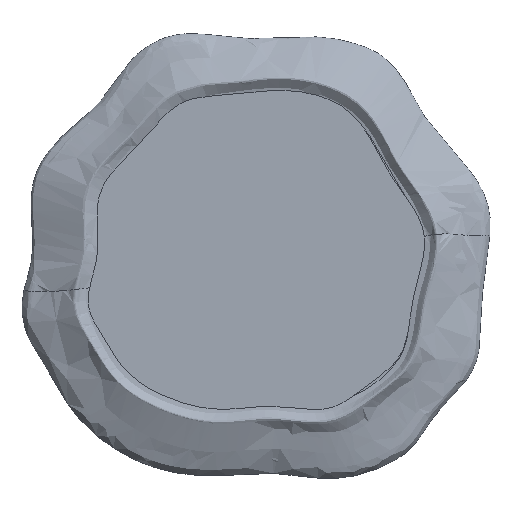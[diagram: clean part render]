
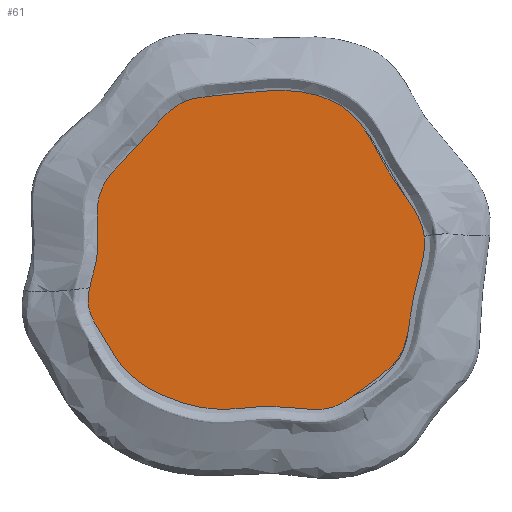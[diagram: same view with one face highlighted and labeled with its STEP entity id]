
A CAD part, top view. The second image highlights one B-rep face of the part: STEP entity #61.
In plain terms, the highlighted planar face has unit normal (0, 0, 1).
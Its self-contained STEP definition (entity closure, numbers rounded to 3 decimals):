
#61=ADVANCED_FACE('',(#89),#396,.T.);
#89=FACE_OUTER_BOUND('',#117,.T.);
#117=EDGE_LOOP('',(#150));
#150=ORIENTED_EDGE('',*,*,#255,.T.);
#255=EDGE_CURVE('',#362,#362,#309,.T.);
#309=B_SPLINE_CURVE_WITH_KNOTS('',3,(#856,#857,#858,#859,#860,#861,#862,
#863,#864,#865,#866,#867,#868,#869,#870,#871,#872,#873,#874,#875,#876,#877,
#878,#879,#880,#881,#882,#883,#884,#885,#886,#887,#888,#889,#890,#891,#892,
#893,#894,#895,#896,#897,#898,#899,#900,#901,#902,#903,#904,#905,#906,#907,
#908,#909,#910,#911,#912,#913,#914,#915,#916,#917,#918,#919,#920,#921,#922,
#923,#924,#925,#926,#927,#928,#929,#930,#931,#932,#933,#934,#935,#936,#937,
#938,#939,#940,#941,#942,#943,#944,#945,#946,#947,#948,#949,#950,#951,#952,
#953,#954,#955,#956,#957,#958,#959,#960,#961,#962,#963,#964,#965,#966,#967,
#968,#969,#970,#971,#972,#973,#974,#975,#976),.UNSPECIFIED.,.T.,.F.,(4,
3,3,3,3,3,3,3,3,3,3,3,3,3,3,3,3,3,3,3,3,3,3,3,3,3,3,3,3,3,3,3,3,3,3,3,3,
3,3,3,4),(0.,48.005,101.464,198.146,276.126,
351.432,521.403,612.826,660.573,704.06,
789.501,833.932,877.788,982.204,1026.929,
1068.753,1157.973,1239.195,1335.641,1378.502,
1421.446,1520.3,1572.544,1620.147,1716.213,
1757.818,1802.748,1905.522,2022.954,2112.329,
2207.532,2262.59,2317.935,2407.988,2495.768,
2569.607,2642.344,2724.907,2821.426,2876.16,
2925.604),.UNSPECIFIED.);
#362=VERTEX_POINT('',#732);
#396=PLANE('',#444);
#444=AXIS2_PLACEMENT_3D('',#730,#466,$);
#466=DIRECTION('',(0.,0.,1.));
#730=CARTESIAN_POINT('',(9263.82,-11497.822,72.206));
#732=CARTESIAN_POINT('',(9380.367,-11089.167,72.206));
#856=CARTESIAN_POINT('',(9380.367,-11089.167,72.206));
#857=CARTESIAN_POINT('',(9381.3,-11104.973,72.206));
#858=CARTESIAN_POINT('',(9385.999,-11120.676,72.206));
#859=CARTESIAN_POINT('',(9392.588,-11135.287,72.206));
#860=CARTESIAN_POINT('',(9399.926,-11151.557,72.206));
#861=CARTESIAN_POINT('',(9409.609,-11166.474,72.206));
#862=CARTESIAN_POINT('',(9418.789,-11181.762,72.206));
#863=CARTESIAN_POINT('',(9435.392,-11209.41,72.206));
#864=CARTESIAN_POINT('',(9450.35,-11238.269,72.206));
#865=CARTESIAN_POINT('',(9470.469,-11263.376,72.206));
#866=CARTESIAN_POINT('',(9486.696,-11283.627,72.206));
#867=CARTESIAN_POINT('',(9506.279,-11301.437,72.206));
#868=CARTESIAN_POINT('',(9527.762,-11315.991,72.206));
#869=CARTESIAN_POINT('',(9548.507,-11330.045,72.206));
#870=CARTESIAN_POINT('',(9571.024,-11341.063,72.206));
#871=CARTESIAN_POINT('',(9594.225,-11350.778,72.206));
#872=CARTESIAN_POINT('',(9646.591,-11372.704,72.206));
#873=CARTESIAN_POINT('',(9702.446,-11387.992,72.206));
#874=CARTESIAN_POINT('',(9758.996,-11386.824,72.206));
#875=CARTESIAN_POINT('',(9789.413,-11386.196,72.206));
#876=CARTESIAN_POINT('',(9820.031,-11380.807,72.206));
#877=CARTESIAN_POINT('',(9850.381,-11378.711,72.206));
#878=CARTESIAN_POINT('',(9866.232,-11377.617,72.206));
#879=CARTESIAN_POINT('',(9882.009,-11377.421,72.206));
#880=CARTESIAN_POINT('',(9897.845,-11378.194,72.206));
#881=CARTESIAN_POINT('',(9912.268,-11378.899,72.206));
#882=CARTESIAN_POINT('',(9926.739,-11380.407,72.206));
#883=CARTESIAN_POINT('',(9941.195,-11382.081,72.206));
#884=CARTESIAN_POINT('',(9969.598,-11385.37,72.206));
#885=CARTESIAN_POINT('',(9997.943,-11389.296,72.206));
#886=CARTESIAN_POINT('',(10026.253,-11386.455,72.206));
#887=CARTESIAN_POINT('',(10040.974,-11384.978,72.206));
#888=CARTESIAN_POINT('',(10055.685,-11381.671,72.206));
#889=CARTESIAN_POINT('',(10069.306,-11375.956,72.206));
#890=CARTESIAN_POINT('',(10082.752,-11370.315,72.206));
#891=CARTESIAN_POINT('',(10095.135,-11362.329,72.206));
#892=CARTESIAN_POINT('',(10107.283,-11354.102,72.206));
#893=CARTESIAN_POINT('',(10136.204,-11334.514,72.206));
#894=CARTESIAN_POINT('',(10163.787,-11313.564,72.206));
#895=CARTESIAN_POINT('',(10190.958,-11291.765,72.206));
#896=CARTESIAN_POINT('',(10202.596,-11282.428,72.206));
#897=CARTESIAN_POINT('',(10214.159,-11272.935,72.206));
#898=CARTESIAN_POINT('',(10224.28,-11261.934,72.206));
#899=CARTESIAN_POINT('',(10233.744,-11251.647,72.206));
#900=CARTESIAN_POINT('',(10241.946,-11240.042,72.206));
#901=CARTESIAN_POINT('',(10248.135,-11227.639,72.206));
#902=CARTESIAN_POINT('',(10261.336,-11201.18,72.206));
#903=CARTESIAN_POINT('',(10265.374,-11171.092,72.206));
#904=CARTESIAN_POINT('',(10269.512,-11141.468,72.206));
#905=CARTESIAN_POINT('',(10273.28,-11114.499,72.206));
#906=CARTESIAN_POINT('',(10277.13,-11087.916,72.206));
#907=CARTESIAN_POINT('',(10283.234,-11061.625,72.206));
#908=CARTESIAN_POINT('',(10290.481,-11030.405,72.206));
#909=CARTESIAN_POINT('',(10300.906,-10999.597,72.206));
#910=CARTESIAN_POINT('',(10306.87,-10967.999,72.206));
#911=CARTESIAN_POINT('',(10309.52,-10953.957,72.206));
#912=CARTESIAN_POINT('',(10311.289,-10939.759,72.206));
#913=CARTESIAN_POINT('',(10311.115,-10925.484,72.206));
#914=CARTESIAN_POINT('',(10310.941,-10911.182,72.206));
#915=CARTESIAN_POINT('',(10308.817,-10896.802,72.206));
#916=CARTESIAN_POINT('',(10304.859,-10883.093,72.206));
#917=CARTESIAN_POINT('',(10295.749,-10851.535,72.206));
#918=CARTESIAN_POINT('',(10276.927,-10823.527,72.206));
#919=CARTESIAN_POINT('',(10257.725,-10796.682,72.206));
#920=CARTESIAN_POINT('',(10247.577,-10782.495,72.206));
#921=CARTESIAN_POINT('',(10237.323,-10768.633,72.206));
#922=CARTESIAN_POINT('',(10227.467,-10754.323,72.206));
#923=CARTESIAN_POINT('',(10218.485,-10741.283,72.206));
#924=CARTESIAN_POINT('',(10209.834,-10727.872,72.206));
#925=CARTESIAN_POINT('',(10201.856,-10714.127,72.206));
#926=CARTESIAN_POINT('',(10185.755,-10686.388,72.206));
#927=CARTESIAN_POINT('',(10172.393,-10657.29,72.206));
#928=CARTESIAN_POINT('',(10156.218,-10629.633,72.206));
#929=CARTESIAN_POINT('',(10149.214,-10617.655,72.206));
#930=CARTESIAN_POINT('',(10141.681,-10605.948,72.206));
#931=CARTESIAN_POINT('',(10133.088,-10595.058,72.206));
#932=CARTESIAN_POINT('',(10123.808,-10583.299,72.206));
#933=CARTESIAN_POINT('',(10113.291,-10572.494,72.206));
#934=CARTESIAN_POINT('',(10101.744,-10563.009,72.206));
#935=CARTESIAN_POINT('',(10075.329,-10541.312,72.206));
#936=CARTESIAN_POINT('',(10043.522,-10526.523,72.206));
#937=CARTESIAN_POINT('',(10010.493,-10517.211,72.206));
#938=CARTESIAN_POINT('',(9972.754,-10506.571,72.206));
#939=CARTESIAN_POINT('',(9933.42,-10503.084,72.206));
#940=CARTESIAN_POINT('',(9894.323,-10504.698,72.206));
#941=CARTESIAN_POINT('',(9864.566,-10505.927,72.206));
#942=CARTESIAN_POINT('',(9834.947,-10510.112,72.206));
#943=CARTESIAN_POINT('',(9805.292,-10512.932,72.206));
#944=CARTESIAN_POINT('',(9773.703,-10515.936,72.206));
#945=CARTESIAN_POINT('',(9742.073,-10517.393,72.206));
#946=CARTESIAN_POINT('',(9710.454,-10520.799,72.206));
#947=CARTESIAN_POINT('',(9692.168,-10522.769,72.206));
#948=CARTESIAN_POINT('',(9673.886,-10525.39,72.206));
#949=CARTESIAN_POINT('',(9656.669,-10531.577,72.206));
#950=CARTESIAN_POINT('',(9639.363,-10537.796,72.206));
#951=CARTESIAN_POINT('',(9623.133,-10547.618,72.206));
#952=CARTESIAN_POINT('',(9608.863,-10559.371,72.206));
#953=CARTESIAN_POINT('',(9585.646,-10578.494,72.206));
#954=CARTESIAN_POINT('',(9567.617,-10602.73,72.206));
#955=CARTESIAN_POINT('',(9547.939,-10625.391,72.206));
#956=CARTESIAN_POINT('',(9528.758,-10647.479,72.206));
#957=CARTESIAN_POINT('',(9508.009,-10668.07,72.206));
#958=CARTESIAN_POINT('',(9486.967,-10688.417,72.206));
#959=CARTESIAN_POINT('',(9469.266,-10705.533,72.206));
#960=CARTESIAN_POINT('',(9451.359,-10722.477,72.206));
#961=CARTESIAN_POINT('',(9437.181,-10742.65,72.206));
#962=CARTESIAN_POINT('',(9423.215,-10762.521,72.206));
#963=CARTESIAN_POINT('',(9412.868,-10785.527,72.206));
#964=CARTESIAN_POINT('',(9408.388,-10809.184,72.206));
#965=CARTESIAN_POINT('',(9403.302,-10836.038,72.206));
#966=CARTESIAN_POINT('',(9405.774,-10863.731,72.206));
#967=CARTESIAN_POINT('',(9406.848,-10891.376,72.206));
#968=CARTESIAN_POINT('',(9408.104,-10923.694,72.206));
#969=CARTESIAN_POINT('',(9407.449,-10955.946,72.206));
#970=CARTESIAN_POINT('',(9400.68,-10987.294,72.206));
#971=CARTESIAN_POINT('',(9396.842,-11005.071,72.206));
#972=CARTESIAN_POINT('',(9391.038,-11022.556,72.206));
#973=CARTESIAN_POINT('',(9386.52,-11040.388,72.206));
#974=CARTESIAN_POINT('',(9382.438,-11056.496,72.206));
#975=CARTESIAN_POINT('',(9379.405,-11072.886,72.206));
#976=CARTESIAN_POINT('',(9380.367,-11089.167,72.206));
